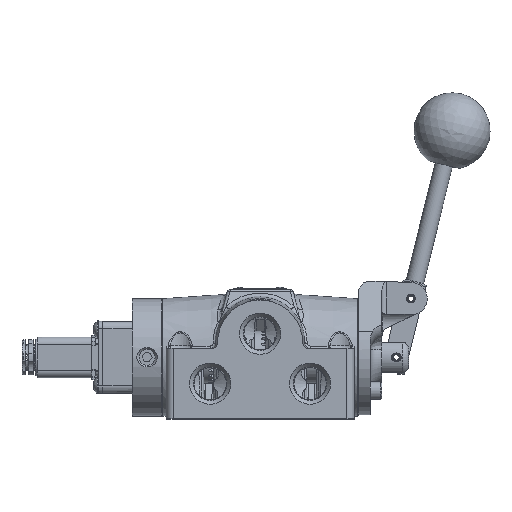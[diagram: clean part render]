
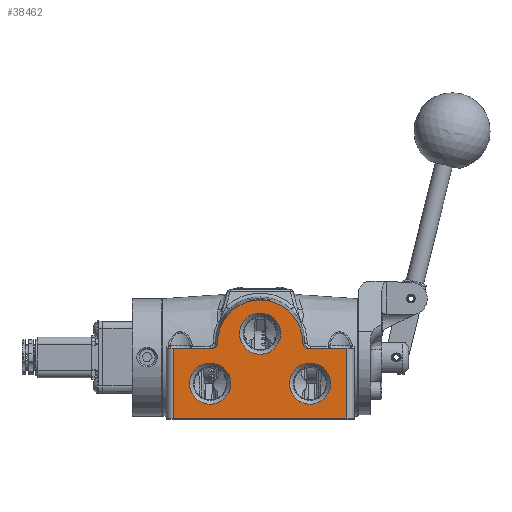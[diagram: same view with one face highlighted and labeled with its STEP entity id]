
A CAD part, top view. The second image highlights one B-rep face of the part: STEP entity #38462.
In plain terms, the highlighted planar face has unit normal (0, 0, 1).
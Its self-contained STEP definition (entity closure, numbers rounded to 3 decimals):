
#52=ELLIPSE('',#40948,0.319,0.318);
#53=ELLIPSE('',#40958,0.319,0.318);
#2446=FACE_BOUND('',#7065,.T.);
#2447=FACE_BOUND('',#7066,.T.);
#2448=FACE_BOUND('',#7067,.T.);
#3124=PLANE('',#41481);
#4697=FACE_OUTER_BOUND('',#7064,.T.);
#7064=EDGE_LOOP('',(#29980,#29981,#29982,#29983,#29984,#29985,#29986,#29987));
#7065=EDGE_LOOP('',(#29988));
#7066=EDGE_LOOP('',(#29989));
#7067=EDGE_LOOP('',(#29990));
#8936=CIRCLE('',#40954,2.302);
#9141=CIRCLE('',#41482,1.111);
#9142=CIRCLE('',#41483,1.111);
#9143=CIRCLE('',#41484,1.111);
#11116=LINE('',#59132,#13357);
#11130=LINE('',#59693,#13371);
#11139=LINE('',#60040,#13380);
#11628=LINE('',#73412,#13869);
#11629=LINE('',#73413,#13870);
#13357=VECTOR('',#47237,1.);
#13371=VECTOR('',#47325,1.);
#13380=VECTOR('',#47364,1.);
#13869=VECTOR('',#48895,1.);
#13870=VECTOR('',#48896,1.);
#15819=VERTEX_POINT('',#59128);
#15820=VERTEX_POINT('',#59130);
#15857=VERTEX_POINT('',#59690);
#15858=VERTEX_POINT('',#59692);
#15865=VERTEX_POINT('',#59713);
#15876=VERTEX_POINT('',#60003);
#15882=VERTEX_POINT('',#60025);
#16695=VERTEX_POINT('',#73411);
#16696=VERTEX_POINT('',#73414);
#16697=VERTEX_POINT('',#73416);
#16698=VERTEX_POINT('',#73418);
#19970=EDGE_CURVE('',#15820,#15819,#11116,.T.);
#20033=EDGE_CURVE('',#15858,#15857,#11130,.T.);
#20041=EDGE_CURVE('',#15858,#15865,#52,.T.);
#20062=EDGE_CURVE('',#15865,#15876,#8936,.T.);
#20069=EDGE_CURVE('',#15876,#15882,#53,.T.);
#20074=EDGE_CURVE('',#15820,#15882,#11139,.T.);
#21391=EDGE_CURVE('',#16695,#15819,#11628,.T.);
#21392=EDGE_CURVE('',#16695,#15857,#11629,.T.);
#21393=EDGE_CURVE('',#16696,#16696,#9141,.T.);
#21394=EDGE_CURVE('',#16697,#16697,#9142,.T.);
#21395=EDGE_CURVE('',#16698,#16698,#9143,.T.);
#29980=ORIENTED_EDGE('',*,*,#21391,.T.);
#29981=ORIENTED_EDGE('',*,*,#19970,.F.);
#29982=ORIENTED_EDGE('',*,*,#20074,.T.);
#29983=ORIENTED_EDGE('',*,*,#20069,.F.);
#29984=ORIENTED_EDGE('',*,*,#20062,.F.);
#29985=ORIENTED_EDGE('',*,*,#20041,.F.);
#29986=ORIENTED_EDGE('',*,*,#20033,.T.);
#29987=ORIENTED_EDGE('',*,*,#21392,.F.);
#29988=ORIENTED_EDGE('',*,*,#21393,.T.);
#29989=ORIENTED_EDGE('',*,*,#21394,.T.);
#29990=ORIENTED_EDGE('',*,*,#21395,.T.);
#38462=ADVANCED_FACE('',(#4697,#2446,#2447,#2448),#3124,.T.);
#40948=AXIS2_PLACEMENT_3D('',#59714,#47335,#47336);
#40954=AXIS2_PLACEMENT_3D('',#60004,#47348,#47349);
#40958=AXIS2_PLACEMENT_3D('',#60026,#47357,#47358);
#41481=AXIS2_PLACEMENT_3D('',#73410,#48893,#48894);
#41482=AXIS2_PLACEMENT_3D('',#73415,#48897,#48898);
#41483=AXIS2_PLACEMENT_3D('',#73417,#48899,#48900);
#41484=AXIS2_PLACEMENT_3D('',#73419,#48901,#48902);
#47237=DIRECTION('',(0.,-1.,0.));
#47325=DIRECTION('',(-1.,0.,0.));
#47335=DIRECTION('center_axis',(0.,0.,1.));
#47336=DIRECTION('ref_axis',(1.,0.,0.));
#47348=DIRECTION('center_axis',(0.,0.,-1.));
#47349=DIRECTION('ref_axis',(-1.,0.,0.));
#47357=DIRECTION('center_axis',(0.,0.,1.));
#47358=DIRECTION('ref_axis',(-1.,0.,0.));
#47364=DIRECTION('',(-1.,0.,0.));
#48893=DIRECTION('center_axis',(0.,0.,1.));
#48894=DIRECTION('ref_axis',(1.,0.,0.));
#48895=DIRECTION('',(1.,0.,0.));
#48896=DIRECTION('',(0.,1.,0.));
#48897=DIRECTION('center_axis',(0.,0.,-1.));
#48898=DIRECTION('ref_axis',(1.,0.,0.));
#48899=DIRECTION('center_axis',(0.,0.,-1.));
#48900=DIRECTION('ref_axis',(1.,0.,0.));
#48901=DIRECTION('center_axis',(0.,0.,-1.));
#48902=DIRECTION('ref_axis',(1.,0.,0.));
#59128=CARTESIAN_POINT('',(4.683,-3.334,4.445));
#59130=CARTESIAN_POINT('',(4.683,0.476,4.445));
#59132=CARTESIAN_POINT('',(4.683,-3.493,4.445));
#59690=CARTESIAN_POINT('',(-4.683,0.476,4.445));
#59692=CARTESIAN_POINT('',(-2.621,0.476,4.445));
#59693=CARTESIAN_POINT('',(-5.08,0.476,4.445));
#59713=CARTESIAN_POINT('',(-2.302,0.794,4.445));
#59714=CARTESIAN_POINT('Origin',(-2.621,0.794,4.445));
#60003=CARTESIAN_POINT('',(2.302,0.794,4.445));
#60004=CARTESIAN_POINT('Origin',(0.,0.794,4.445));
#60025=CARTESIAN_POINT('',(2.621,0.476,4.445));
#60026=CARTESIAN_POINT('Origin',(2.621,0.794,4.445));
#60040=CARTESIAN_POINT('',(-5.08,0.476,4.445));
#73410=CARTESIAN_POINT('Origin',(5.08,-3.493,4.445));
#73411=CARTESIAN_POINT('',(-4.683,-3.334,4.445));
#73412=CARTESIAN_POINT('',(5.239,-3.334,4.445));
#73413=CARTESIAN_POINT('',(-4.683,-3.493,4.445));
#73414=CARTESIAN_POINT('',(-1.111,1.271,4.445));
#73415=CARTESIAN_POINT('Origin',(0.,1.271,4.445));
#73416=CARTESIAN_POINT('',(-3.81,-1.429,4.445));
#73417=CARTESIAN_POINT('Origin',(-2.699,-1.429,4.445));
#73418=CARTESIAN_POINT('',(1.588,-1.429,4.445));
#73419=CARTESIAN_POINT('Origin',(2.699,-1.429,4.445));
